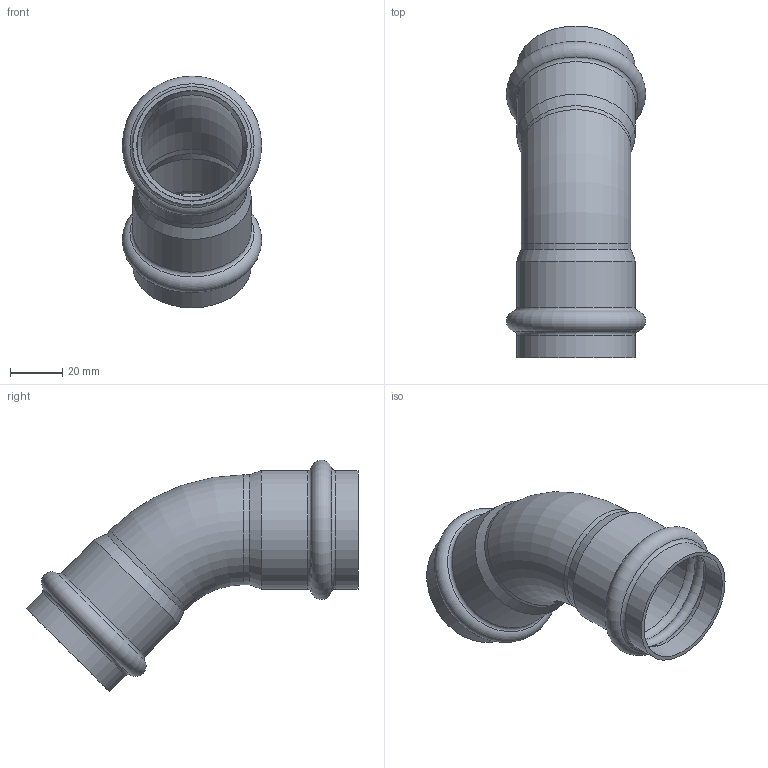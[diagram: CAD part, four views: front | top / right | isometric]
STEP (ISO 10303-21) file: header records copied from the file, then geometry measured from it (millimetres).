
FILE_DESCRIPTION(('STEP AP203'), '1');
FILE_NAME('VTi.959.I.004242', '', ('UNSPECIFIED'), ('UNSPECIFIED'), 'C3D Converter', 'C3D Toolkit', '');
FILE_SCHEMA(('CONFIG_CONTROL_DESIGN'));
Length unit declared in the file: millimetre
Products named in the file (1): ВР.302661.022.000 СБ
Bounding box: 53.3 x 126.98 x 88.63 mm (x, y, z)
Volume: 32029.5 mm3; surface area: 38195.1 mm2
Topology: 1 solids, 1 shells, 34 faces, 74 edges, 42 vertices
Faces by surface type: torus 16, cylinder 12, cone 4, plane 2
Full cylindrical faces by diameter (mm): 39 x2, 42 x2, 42.3 x4, 45.3 x4
Entity records: 808 total; most frequent: DIRECTION 154, CARTESIAN_POINT 119, ORIENTED_EDGE 84, AXIS2_PLACEMENT_3D 77, EDGE_LOOP 68, FACE_OUTER_BOUND 48, EDGE_CURVE 42, VERTEX_POINT 42
